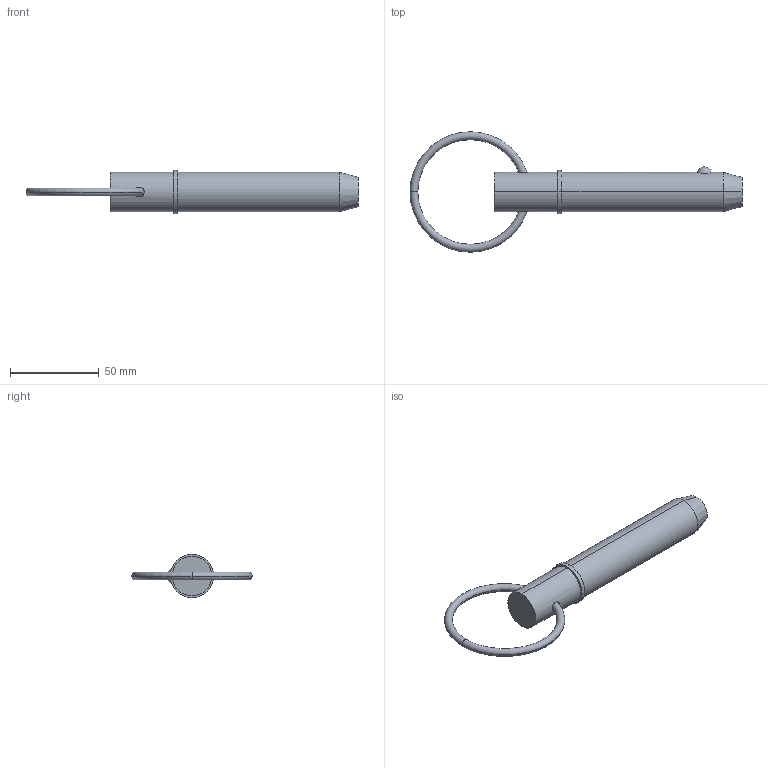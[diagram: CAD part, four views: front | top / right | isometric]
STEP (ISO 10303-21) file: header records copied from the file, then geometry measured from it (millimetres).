
FILE_DESCRIPTION (( 'STEP AP203' ), '1' );
FILE_NAME ('33014.W8830.step', '2024-11-04T08:37:27', ( '' ), ( '' ), 'SwSTEP 2.0', 'SolidWorks 2019', '' );
FILE_SCHEMA (( 'CONFIG_CONTROL_DESIGN' ));
Length unit declared in the file: millimetre
Products named in the file (3): 33014.W8830; Part1_33014.W8830; Part2_33014.W8830
Assembly tree (2 placements, depth 2):
  33014.W8830
    Part1_33014.W8830
    Part2_33014.W8830
Bounding box: 187.31 x 67.95 x 24.45 mm (x, y, z)
Volume: 56133.8 mm3; surface area: 13634.5 mm2
Topology: 2 solids, 2 shells, 22 faces, 43 edges, 26 vertices
Faces by surface type: torus 8, cylinder 6, plane 4, sphere 2, cone 2
Entity records: 1065 total; most frequent: CARTESIAN_POINT 288, DIRECTION 120, ORIENTED_EDGE 86, AXIS2_PLACEMENT_3D 56, EDGE_CURVE 43, CIRCLE 29, EDGE_LOOP 27, PERSON_AND_ORGANIZATION 26
